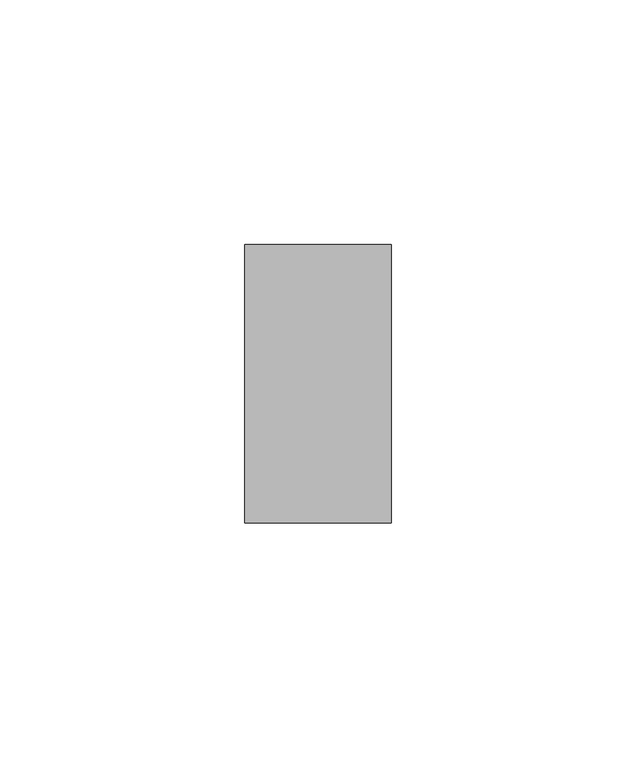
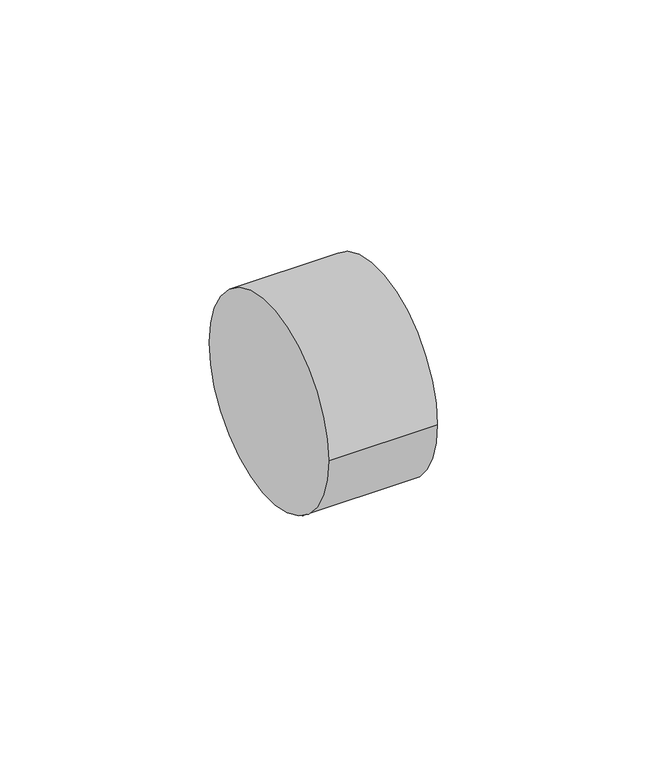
"""IFC4 building model written with IfcOpenShell, lengths in millimetres: pipe fitting geometry, ADSK_ДетальСтальнаяСварная_Заглушка_ГОСТ17379-2001 : Исполнение 2."""

from ifc_helpers import new_model, si_unit, point, frame, origin, origin_2d, place, context, project, spatial, circle_curve, trimmed, segment, composite_curve, outline, extrude, source, transform, mapped, element, save


def pipe_fitting_6dd80a06(model_context):
    return source(origin(), model_context, "Body", "SweptSolid", [
        extrude(outline(composite_curve([segment(trimmed(circle_curve(origin_2d(), 28.5), [point((-28.5, 0.0))], [point((28.5, 0.0))], False, "CARTESIAN"), True, "CONTINUOUS"), segment(trimmed(circle_curve(origin_2d(), 28.5), [point((28.5, 0.0))], [point((-28.5, 0.0))], False, "CARTESIAN"), True, "CONTINUOUS")], self_intersect=False)), frame((0.0, 0.0, 0.0), z_axis=(1.0, 0.0, 0.0), x_axis=(0.0, 1.0, 0.0)), (0.0, 0.0, 1.0), 30.0),
    ])


if __name__ == "__main__":
    model = new_model("IFC4")
    model_context = context("Model", 3, world=origin())
    ifc_project = project(units=[si_unit("LENGTHUNIT", "METRE", prefix="MILLI")], contexts=[model_context])
    site = spatial("IfcSite", under=ifc_project)
    building = spatial("IfcBuilding", under=site)
    placement = place(None, origin())
    pipe_fitting_shape = pipe_fitting_6dd80a06(model_context)
    element("IfcPipeFitting", 1, ObjectType="ADSK_ДетальСтальнаяСварная_Заглушка_ГОСТ17379-2001 : Исполнение 2", at=placement, inside=building, context=model_context, shape_type="MappedRepresentation", body=[
        mapped(pipe_fitting_shape, transform((0.0, 0.0, 0.0), x_axis=(1.0, 0.0, 0.0), y_axis=(0.0, 1.0, 0.0), z_axis=(0.0, 0.0, 1.0))),
    ])
    save(model, "model.ifc")
